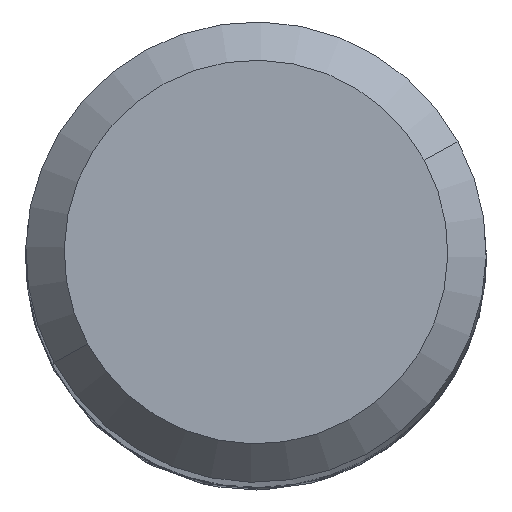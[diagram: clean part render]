
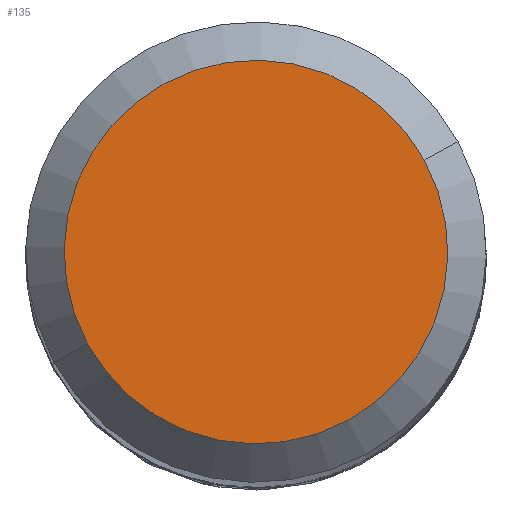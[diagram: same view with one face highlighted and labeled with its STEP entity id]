
A CAD part, top view. The second image highlights one B-rep face of the part: STEP entity #135.
In plain terms, the highlighted planar face has unit normal (0, 0, 1).
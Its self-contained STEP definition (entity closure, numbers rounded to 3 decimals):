
#80=AXIS2_PLACEMENT_3D('Circle Axis2P3D',#78,#79,$) ;
#124=AXIS2_PLACEMENT_3D('Plane Axis2P3D',#121,#122,#123) ;
#128=AXIS2_PLACEMENT_3D('Circle Axis2P3D',#126,#127,$) ;
#78=CARTESIAN_POINT('Axis2P3D Location',(0.,0.,65.996)) ;
#82=CARTESIAN_POINT('Vertex',(2.194,1.199,65.996)) ;
#84=CARTESIAN_POINT('Vertex',(-2.194,-1.199,65.996)) ;
#121=CARTESIAN_POINT('Axis2P3D Location',(2.5,0.,65.996)) ;
#126=CARTESIAN_POINT('Axis2P3D Location',(0.,0.,65.996)) ;
#79=DIRECTION('Axis2P3D Direction',(0.,0.,-1.)) ;
#122=DIRECTION('Axis2P3D Direction',(0.,0.,1.)) ;
#123=DIRECTION('Axis2P3D XDirection',(1.,0.,0.)) ;
#127=DIRECTION('Axis2P3D Direction',(0.,0.,1.)) ;
#132=ORIENTED_EDGE('',*,*,#86,.T.) ;
#133=ORIENTED_EDGE('',*,*,#130,.T.) ;
#135=ADVANCED_FACE('NOCUT',(#134),#125,.T.) ;
#81=CIRCLE('generated circle',#80,2.5) ;
#129=CIRCLE('generated circle',#128,2.5) ;
#86=EDGE_CURVE('',#83,#85,#81,.F.) ;
#130=EDGE_CURVE('',#85,#83,#129,.T.) ;
#131=EDGE_LOOP('',(#132,#133)) ;
#134=FACE_OUTER_BOUND('',#131,.T.) ;
#125=PLANE('',#124) ;
#83=VERTEX_POINT('',#82) ;
#85=VERTEX_POINT('',#84) ;
